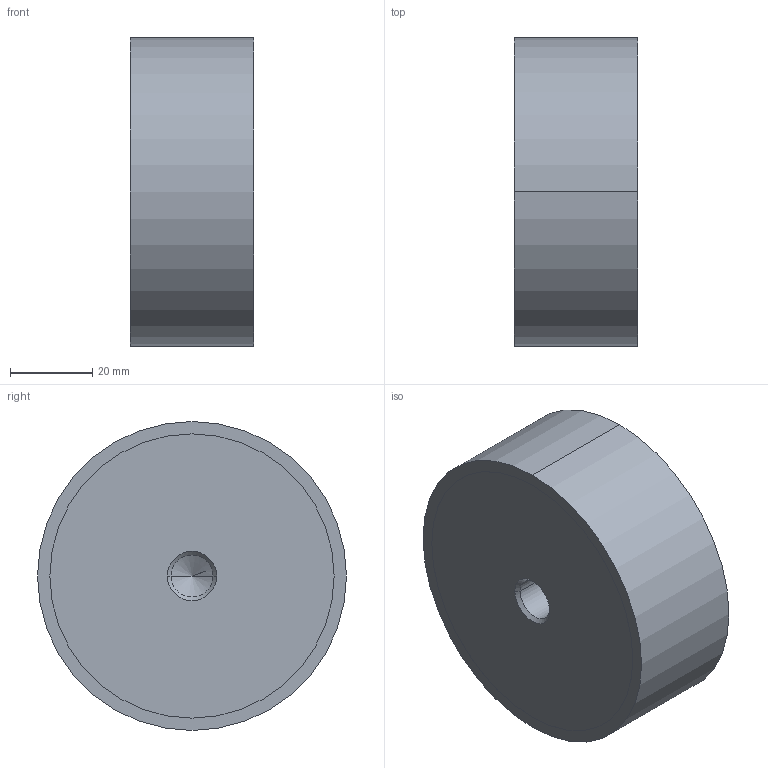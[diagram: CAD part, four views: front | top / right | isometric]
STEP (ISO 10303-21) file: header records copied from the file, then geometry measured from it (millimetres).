
FILE_DESCRIPTION (( 'STEP AP214' ), '1' );
FILE_NAME ('351-75-30-M12-EE-70.step', '2025-07-23T09:40:55', ( '' ), ( '' ), 'SwSTEP 2.0', 'SolidWorks 2022', '' );
FILE_SCHEMA (( 'AUTOMOTIVE_DESIGN' ));
Length unit declared in the file: millimetre
Products named in the file (1): 351-75-30-M12-EE-70
Bounding box: 30 x 75 x 75 mm (x, y, z)
Volume: 130319.3 mm3; surface area: 16669.8 mm2
Topology: 1 solids, 1 shells, 28 faces, 58 edges, 34 vertices
Faces by surface type: cylinder 14, cone 8, plane 6
Entity records: 844 total; most frequent: DIRECTION 144, CARTESIAN_POINT 117, ORIENTED_EDGE 108, AXIS2_PLACEMENT_3D 61, EDGE_CURVE 54, EDGE_LOOP 34, VERTEX_POINT 34, CIRCLE 32
